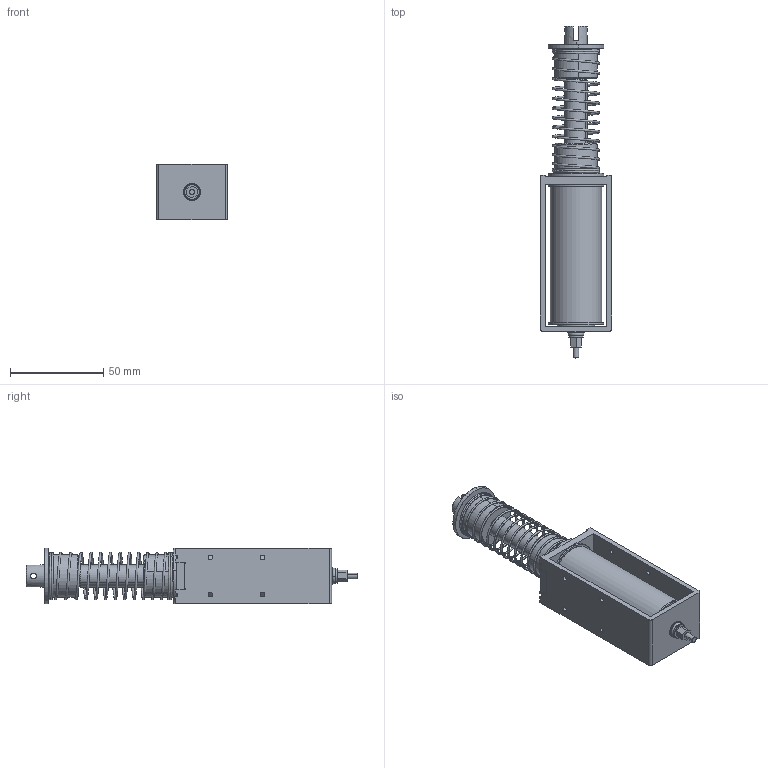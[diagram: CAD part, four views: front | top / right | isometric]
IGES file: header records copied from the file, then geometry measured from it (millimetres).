
Start section: SolidWorks IGES file using analytic representation for surfaces
Global section: file name: L:\カタログ\web用3Dデータ\CH1284\3D_ch1284\w_ch1284.IGS; native system: SolidWorks 2015; preprocessor: SolidWorks 2015; author: gijyutu5; date: 160913.161355; units: millimetre
Bounding box: 38.5 x 178.3 x 30 mm (x, y, z)
Surface area: 38209.2 mm2 (no closed solid volume)
Topology: 0 solids, 0 shells, 186 faces, 3432 edges, 3432 vertices
Faces by surface type: bspline 96, revolution 90
